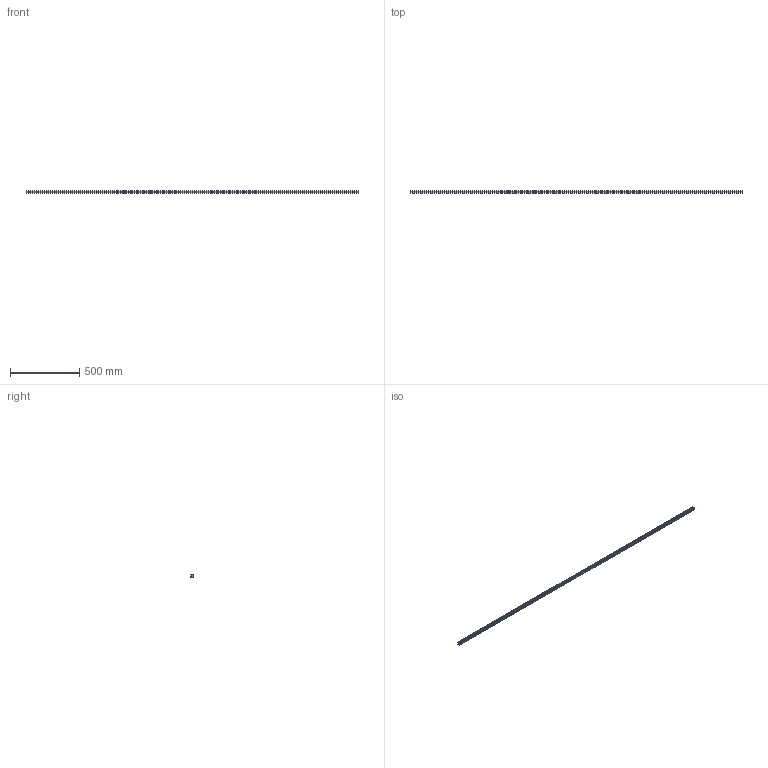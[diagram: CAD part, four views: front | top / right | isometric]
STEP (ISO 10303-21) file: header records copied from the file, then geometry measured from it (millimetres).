
FILE_DESCRIPTION (( 'STEP AP203' ), '1' );
FILE_NAME ('L1018.20R-2400.step', '2023-08-06T09:12:34', ( '' ), ( '' ), 'SwSTEP 2.0', 'SolidWorks 2019', '' );
FILE_SCHEMA (( 'CONFIG_CONTROL_DESIGN' ));
Length unit declared in the file: millimetre
Products named in the file (1): L1018.20R-2400
Bounding box: 2400 x 19.3 x 20 mm (x, y, z)
Volume: 761107.8 mm3; surface area: 203189.7 mm2
Topology: 1 solids, 1 shells, 389 faces, 881 edges, 494 vertices
Faces by surface type: cylinder 163, cone 160, plane 66
Entity records: 10358 total; most frequent: DIRECTION 1987, CARTESIAN_POINT 1685, ORIENTED_EDGE 1602, EDGE_CURVE 801, AXIS2_PLACEMENT_3D 796, VERTEX_POINT 494, EDGE_LOOP 469, CIRCLE 406
